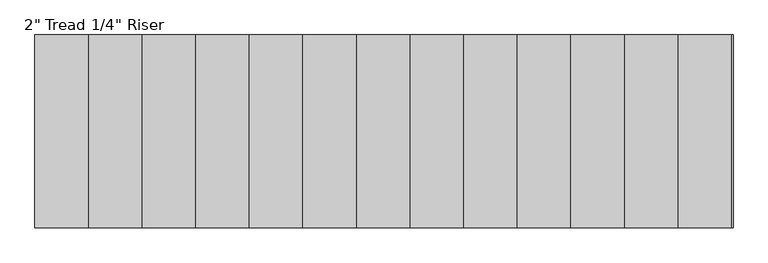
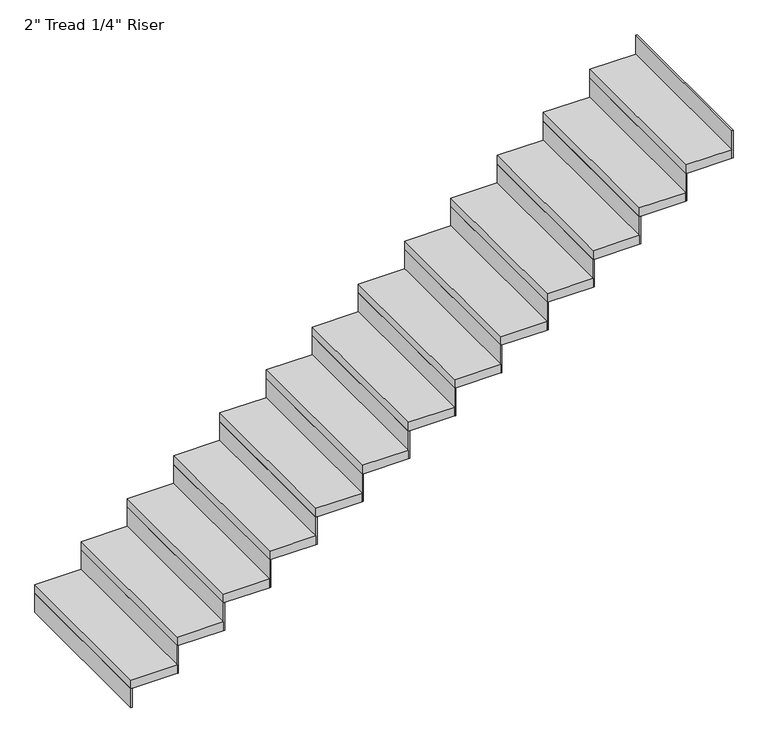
"""IFC4 building model written with IfcOpenShell, lengths in millimetres: stair flight geometry."""

from ifc_helpers import new_model, si_unit, frame, origin, origin_with_axes, place, context, project, spatial, polyline, outline, extrude, source, transform, mapped, element, save


def stair_flight_1aeb8a89(model_context):
    return source(origin(), model_context, "Body", "SweptSolid", [
        extrude(outline(polyline([(135517.7788146, -35593.481782), (135511.4288146, -35593.481782), (135511.4288146, -34679.081782), (135517.7788146, -34679.081782), (135517.7788146, -35593.481782)])), origin_with_axes(), (0.0, 0.0, 1.0), 109.6210526),
        extrude(outline(polyline([(135765.4288146, -34679.081782), (135765.4288146, -35593.481782), (135511.4288146, -35593.481782), (135511.4288146, -34679.081782), (135765.4288146, -34679.081782)])), frame((0.0, 0.0, 109.6210526), z_axis=(0.0, 0.0, 1.0), x_axis=(1.0, 0.0, 0.0)), (0.0, 0.0, 1.0), 50.8),
        extrude(outline(polyline([(135771.7788146, -35593.481782), (135765.4288146, -35593.481782), (135765.4288146, -34679.081782), (135771.7788146, -34679.081782), (135771.7788146, -35593.481782)])), frame((0.0, 0.0, 109.6210526), z_axis=(0.0, 0.0, 1.0), x_axis=(1.0, 0.0, 0.0)), (0.0, 0.0, 1.0), 160.4210526),
        extrude(outline(polyline([(136019.4288146, -34679.081782), (136019.4288146, -35593.481782), (135765.4288146, -35593.481782), (135765.4288146, -34679.081782), (136019.4288146, -34679.081782)])), frame((0.0, 0.0, 270.0421053), z_axis=(0.0, 0.0, 1.0), x_axis=(1.0, 0.0, 0.0)), (0.0, 0.0, 1.0), 50.8),
        extrude(outline(polyline([(136025.7788146, -35593.481782), (136019.4288146, -35593.481782), (136019.4288146, -34679.081782), (136025.7788146, -34679.081782), (136025.7788146, -35593.481782)])), frame((0.0, 0.0, 270.0421053), z_axis=(0.0, 0.0, 1.0), x_axis=(1.0, 0.0, 0.0)), (0.0, 0.0, 1.0), 160.4210526),
        extrude(outline(polyline([(136273.4288146, -34679.081782), (136273.4288146, -35593.481782), (136019.4288146, -35593.481782), (136019.4288146, -34679.081782), (136273.4288146, -34679.081782)])), frame((0.0, 0.0, 430.4631579), z_axis=(0.0, 0.0, 1.0), x_axis=(1.0, 0.0, 0.0)), (0.0, 0.0, 1.0), 50.8),
        extrude(outline(polyline([(136279.7788146, -35593.481782), (136273.4288146, -35593.481782), (136273.4288146, -34679.081782), (136279.7788146, -34679.081782), (136279.7788146, -35593.481782)])), frame((0.0, 0.0, 430.4631579), z_axis=(0.0, 0.0, 1.0), x_axis=(1.0, 0.0, 0.0)), (0.0, 0.0, 1.0), 160.4210526),
        extrude(outline(polyline([(136527.4288146, -34679.081782), (136527.4288146, -35593.481782), (136273.4288146, -35593.481782), (136273.4288146, -34679.081782), (136527.4288146, -34679.081782)])), frame((0.0, 0.0, 590.8842105), z_axis=(0.0, 0.0, 1.0), x_axis=(1.0, 0.0, 0.0)), (0.0, 0.0, 1.0), 50.8),
        extrude(outline(polyline([(136533.7788146, -35593.481782), (136527.4288146, -35593.481782), (136527.4288146, -34679.081782), (136533.7788146, -34679.081782), (136533.7788146, -35593.481782)])), frame((0.0, 0.0, 590.8842105), z_axis=(0.0, 0.0, 1.0), x_axis=(1.0, 0.0, 0.0)), (0.0, 0.0, 1.0), 160.4210526),
        extrude(outline(polyline([(136781.4288146, -34679.081782), (136781.4288146, -35593.481782), (136527.4288146, -35593.481782), (136527.4288146, -34679.081782), (136781.4288146, -34679.081782)])), frame((0.0, 0.0, 751.3052632), z_axis=(0.0, 0.0, 1.0), x_axis=(1.0, 0.0, 0.0)), (0.0, 0.0, 1.0), 50.8),
        extrude(outline(polyline([(136787.7788146, -35593.481782), (136781.4288146, -35593.481782), (136781.4288146, -34679.081782), (136787.7788146, -34679.081782), (136787.7788146, -35593.481782)])), frame((0.0, 0.0, 751.3052632), z_axis=(0.0, 0.0, 1.0), x_axis=(1.0, 0.0, 0.0)), (0.0, 0.0, 1.0), 160.4210526),
        extrude(outline(polyline([(137035.4288146, -34679.081782), (137035.4288146, -35593.481782), (136781.4288146, -35593.481782), (136781.4288146, -34679.081782), (137035.4288146, -34679.081782)])), frame((0.0, 0.0, 911.7263158), z_axis=(0.0, 0.0, 1.0), x_axis=(1.0, 0.0, 0.0)), (0.0, 0.0, 1.0), 50.8),
        extrude(outline(polyline([(137041.7788146, -35593.481782), (137035.4288146, -35593.481782), (137035.4288146, -34679.081782), (137041.7788146, -34679.081782), (137041.7788146, -35593.481782)])), frame((0.0, 0.0, 911.7263158), z_axis=(0.0, 0.0, 1.0), x_axis=(1.0, 0.0, 0.0)), (0.0, 0.0, 1.0), 160.4210526),
        extrude(outline(polyline([(137289.4288146, -34679.081782), (137289.4288146, -35593.481782), (137035.4288146, -35593.481782), (137035.4288146, -34679.081782), (137289.4288146, -34679.081782)])), frame((0.0, 0.0, 1072.1473684), z_axis=(0.0, 0.0, 1.0), x_axis=(1.0, 0.0, 0.0)), (0.0, 0.0, 1.0), 50.8),
        extrude(outline(polyline([(137295.7788146, -35593.481782), (137289.4288146, -35593.481782), (137289.4288146, -34679.081782), (137295.7788146, -34679.081782), (137295.7788146, -35593.481782)])), frame((0.0, 0.0, 1072.1473684), z_axis=(0.0, 0.0, 1.0), x_axis=(1.0, 0.0, 0.0)), (0.0, 0.0, 1.0), 160.4210526),
        extrude(outline(polyline([(137543.4288146, -34679.081782), (137543.4288146, -35593.481782), (137289.4288146, -35593.481782), (137289.4288146, -34679.081782), (137543.4288146, -34679.081782)])), frame((0.0, 0.0, 1232.5684211), z_axis=(0.0, 0.0, 1.0), x_axis=(1.0, 0.0, 0.0)), (0.0, 0.0, 1.0), 50.8),
        extrude(outline(polyline([(137549.7788146, -35593.481782), (137543.4288146, -35593.481782), (137543.4288146, -34679.081782), (137549.7788146, -34679.081782), (137549.7788146, -35593.481782)])), frame((0.0, 0.0, 1232.5684211), z_axis=(0.0, 0.0, 1.0), x_axis=(1.0, 0.0, 0.0)), (0.0, 0.0, 1.0), 160.4210526),
        extrude(outline(polyline([(137797.4288146, -34679.081782), (137797.4288146, -35593.481782), (137543.4288146, -35593.481782), (137543.4288146, -34679.081782), (137797.4288146, -34679.081782)])), frame((0.0, 0.0, 1392.9894737), z_axis=(0.0, 0.0, 1.0), x_axis=(1.0, 0.0, 0.0)), (0.0, 0.0, 1.0), 50.8),
        extrude(outline(polyline([(137803.7788146, -35593.481782), (137797.4288146, -35593.481782), (137797.4288146, -34679.081782), (137803.7788146, -34679.081782), (137803.7788146, -35593.481782)])), frame((0.0, 0.0, 1392.9894737), z_axis=(0.0, 0.0, 1.0), x_axis=(1.0, 0.0, 0.0)), (0.0, 0.0, 1.0), 160.4210526),
        extrude(outline(polyline([(138051.4288146, -34679.081782), (138051.4288146, -35593.481782), (137797.4288146, -35593.481782), (137797.4288146, -34679.081782), (138051.4288146, -34679.081782)])), frame((0.0, 0.0, 1553.4105263), z_axis=(0.0, 0.0, 1.0), x_axis=(1.0, 0.0, 0.0)), (0.0, 0.0, 1.0), 50.8),
        extrude(outline(polyline([(138057.7788146, -35593.481782), (138051.4288146, -35593.481782), (138051.4288146, -34679.081782), (138057.7788146, -34679.081782), (138057.7788146, -35593.481782)])), frame((0.0, 0.0, 1553.4105263), z_axis=(0.0, 0.0, 1.0), x_axis=(1.0, 0.0, 0.0)), (0.0, 0.0, 1.0), 160.4210526),
        extrude(outline(polyline([(138305.4288146, -34679.081782), (138305.4288146, -35593.481782), (138051.4288146, -35593.481782), (138051.4288146, -34679.081782), (138305.4288146, -34679.081782)])), frame((0.0, 0.0, 1713.8315789), z_axis=(0.0, 0.0, 1.0), x_axis=(1.0, 0.0, 0.0)), (0.0, 0.0, 1.0), 50.8),
        extrude(outline(polyline([(138311.7788146, -35593.481782), (138305.4288146, -35593.481782), (138305.4288146, -34679.081782), (138311.7788146, -34679.081782), (138311.7788146, -35593.481782)])), frame((0.0, 0.0, 1713.8315789), z_axis=(0.0, 0.0, 1.0), x_axis=(1.0, 0.0, 0.0)), (0.0, 0.0, 1.0), 160.4210526),
        extrude(outline(polyline([(138559.4288146, -34679.081782), (138559.4288146, -35593.481782), (138305.4288146, -35593.481782), (138305.4288146, -34679.081782), (138559.4288146, -34679.081782)])), frame((0.0, 0.0, 1874.2526316), z_axis=(0.0, 0.0, 1.0), x_axis=(1.0, 0.0, 0.0)), (0.0, 0.0, 1.0), 50.8),
        extrude(outline(polyline([(138565.7788146, -35593.481782), (138559.4288146, -35593.481782), (138559.4288146, -34679.081782), (138565.7788146, -34679.081782), (138565.7788146, -35593.481782)])), frame((0.0, 0.0, 1874.2526316), z_axis=(0.0, 0.0, 1.0), x_axis=(1.0, 0.0, 0.0)), (0.0, 0.0, 1.0), 160.4210526),
        extrude(outline(polyline([(138819.7788146, -35593.481782), (138813.4288146, -35593.481782), (138813.4288146, -34679.081782), (138819.7788146, -34679.081782), (138819.7788146, -35593.481782)])), frame((0.0, 0.0, 2034.6736842), z_axis=(0.0, 0.0, 1.0), x_axis=(1.0, 0.0, 0.0)), (0.0, 0.0, 1.0), 160.4210526),
        extrude(outline(polyline([(138813.4288146, -34679.081782), (138813.4288146, -35593.481782), (138559.4288146, -35593.481782), (138559.4288146, -34679.081782), (138813.4288146, -34679.081782)])), frame((0.0, 0.0, 2034.6736842), z_axis=(0.0, 0.0, 1.0), x_axis=(1.0, 0.0, 0.0)), (0.0, 0.0, 1.0), 50.8),
    ])


if __name__ == "__main__":
    model = new_model("IFC4")
    model_context = context("Model", 3, world=origin())
    ifc_project = project(units=[si_unit("LENGTHUNIT", "METRE", prefix="MILLI")], contexts=[model_context])
    site = spatial("IfcSite", under=ifc_project)
    building = spatial("IfcBuilding", under=site)
    placement = place(None, origin())
    stair_flight_shape = stair_flight_1aeb8a89(model_context)
    element("IfcStairFlight", 1, ObjectType="2\" Tread 1/4\" Riser", at=placement, inside=building, context=model_context, shape_type="MappedRepresentation", body=[
        mapped(stair_flight_shape, transform((0.0, 0.0, 0.0), x_axis=(1.0, 0.0, 0.0), y_axis=(0.0, 1.0, 0.0), z_axis=(0.0, 0.0, 1.0))),
    ])
    save(model, "model.ifc")
